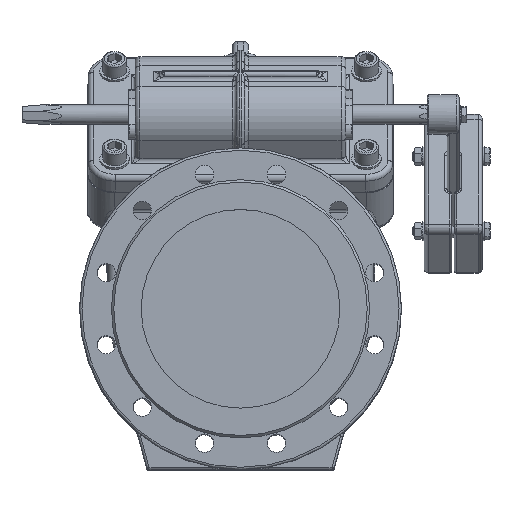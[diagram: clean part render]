
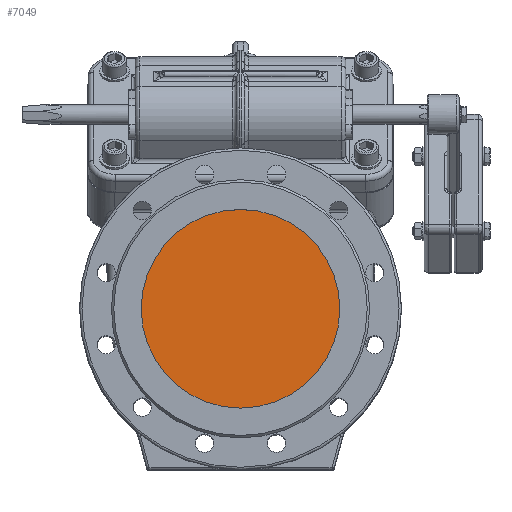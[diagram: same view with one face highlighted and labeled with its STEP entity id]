
A CAD part, top view. The second image highlights one B-rep face of the part: STEP entity #7049.
In plain terms, the highlighted planar face has unit normal (0, 0, 1).
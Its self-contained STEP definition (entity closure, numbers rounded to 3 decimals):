
#7049=ADVANCED_FACE('',(#20920),#20922,.T.);
#20920=FACE_BOUND('',#20921,.T.);
#20921=EDGE_LOOP('',(#30540));
#20922=PLANE('',#20923);
#20923=AXIS2_PLACEMENT_3D('',#20924,#20925,#20926);
#20924=CARTESIAN_POINT('',(0.,0.,255.));
#20925=DIRECTION('',(0.,0.,1.));
#20926=DIRECTION('',(1.,0.,0.));
#30540=ORIENTED_EDGE('',*,*,#34676,.F.);
#34676=EDGE_CURVE('',#38907,#38907,#38908,.T.);
#38907=VERTEX_POINT('',#64018);
#38908=CIRCLE('',#64019,125.);
#64018=CARTESIAN_POINT('',(0.,125.,255.));
#64019=AXIS2_PLACEMENT_3D('',#64020,#64021,#64022);
#64020=CARTESIAN_POINT('',(0.,0.,255.));
#64021=DIRECTION('',(0.,0.,-1.));
#64022=DIRECTION('',(1.,0.,0.));
